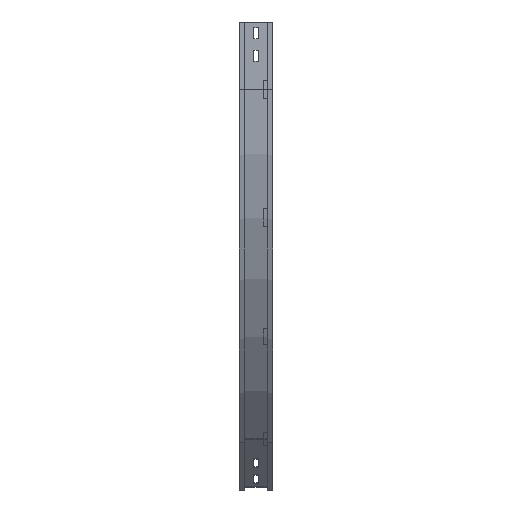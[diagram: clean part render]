
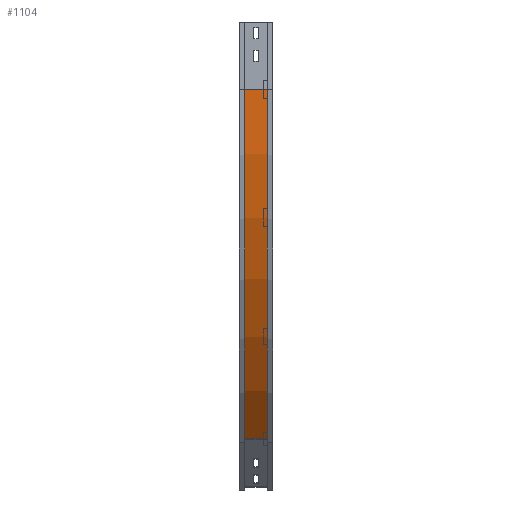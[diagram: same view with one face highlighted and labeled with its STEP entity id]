
A CAD part, left-side view. The second image highlights one B-rep face of the part: STEP entity #1104.
In plain terms, the highlighted cylindrical face has radius 1100 mm (diameter 2200 mm), a partial arc.
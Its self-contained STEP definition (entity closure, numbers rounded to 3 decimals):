
#30 = CIRCLE ( 'NONE', #2258, 1100. ) ;
#38 = EDGE_CURVE ( 'NONE', #663, #2747, #500, .T. ) ;
#241 = EDGE_CURVE ( 'NONE', #2747, #2271, #1424, .T. ) ;
#324 = CYLINDRICAL_SURFACE ( 'NONE', #1030, 1100. ) ;
#342 = DIRECTION ( 'NONE',  ( -1., 0., 0. ) ) ;
#500 = CIRCLE ( 'NONE', #2010, 1100. ) ;
#623 = DIRECTION ( 'NONE',  ( 0., -1., 0. ) ) ;
#663 = VERTEX_POINT ( 'NONE', #3370 ) ;
#809 = ORIENTED_EDGE ( 'NONE', *, *, #38, .T. ) ;
#867 = FACE_OUTER_BOUND ( 'NONE', #3403, .T. ) ;
#1030 = AXIS2_PLACEMENT_3D ( 'NONE', #1657, #2920, #1887 ) ;
#1104 = ADVANCED_FACE ( 'NONE', ( #867 ), #324, .T. ) ;
#1123 = VECTOR ( 'NONE', #623, 1000. ) ;
#1424 = LINE ( 'NONE', #2993, #1123 ) ;
#1528 = ORIENTED_EDGE ( 'NONE', *, *, #2048, .F. ) ;
#1637 = EDGE_CURVE ( 'NONE', #3068, #2271, #30, .T. ) ;
#1657 = CARTESIAN_POINT ( 'NONE',  ( 1109., 0., -150. ) ) ;
#1766 = CARTESIAN_POINT ( 'NONE',  ( 331.183, 12., -927.817 ) ) ;
#1826 = VECTOR ( 'NONE', #3371, 1000. ) ;
#1887 = DIRECTION ( 'NONE',  ( 0., 0., -1. ) ) ;
#2010 = AXIS2_PLACEMENT_3D ( 'NONE', #2722, #3193, #342 ) ;
#2048 = EDGE_CURVE ( 'NONE', #663, #3068, #3045, .T. ) ;
#2060 = CARTESIAN_POINT ( 'NONE',  ( 1109., 12., -150. ) ) ;
#2258 = AXIS2_PLACEMENT_3D ( 'NONE', #2060, #3422, #2868 ) ;
#2271 = VERTEX_POINT ( 'NONE', #1766 ) ;
#2282 = CARTESIAN_POINT ( 'NONE',  ( 331.183, 63., -927.817 ) ) ;
#2348 = CARTESIAN_POINT ( 'NONE',  ( 9., 12., -150. ) ) ;
#2475 = CARTESIAN_POINT ( 'NONE',  ( 9., 12., -150. ) ) ;
#2722 = CARTESIAN_POINT ( 'NONE',  ( 1109., 63., -150. ) ) ;
#2747 = VERTEX_POINT ( 'NONE', #2282 ) ;
#2772 = ORIENTED_EDGE ( 'NONE', *, *, #1637, .F. ) ;
#2868 = DIRECTION ( 'NONE',  ( -1., 0., 0. ) ) ;
#2920 = DIRECTION ( 'NONE',  ( 0., -1., 0. ) ) ;
#2993 = CARTESIAN_POINT ( 'NONE',  ( 331.183, 12., -927.817 ) ) ;
#3045 = LINE ( 'NONE', #2348, #1826 ) ;
#3056 = ORIENTED_EDGE ( 'NONE', *, *, #241, .T. ) ;
#3068 = VERTEX_POINT ( 'NONE', #2475 ) ;
#3193 = DIRECTION ( 'NONE',  ( 0., -1., 0. ) ) ;
#3370 = CARTESIAN_POINT ( 'NONE',  ( 9., 63., -150. ) ) ;
#3371 = DIRECTION ( 'NONE',  ( 0., -1., 0. ) ) ;
#3403 = EDGE_LOOP ( 'NONE', ( #2772, #1528, #809, #3056 ) ) ;
#3422 = DIRECTION ( 'NONE',  ( 0., -1., 0. ) ) ;
